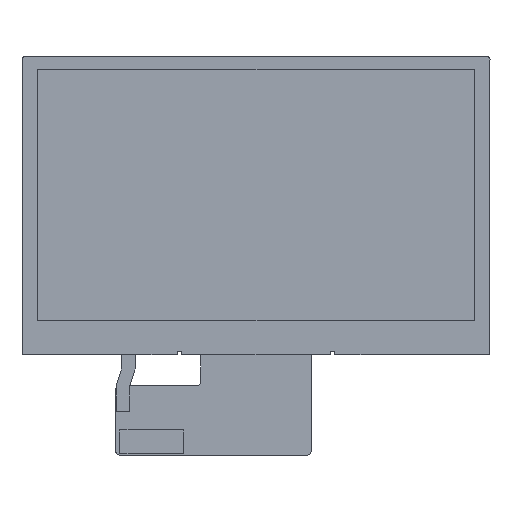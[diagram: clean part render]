
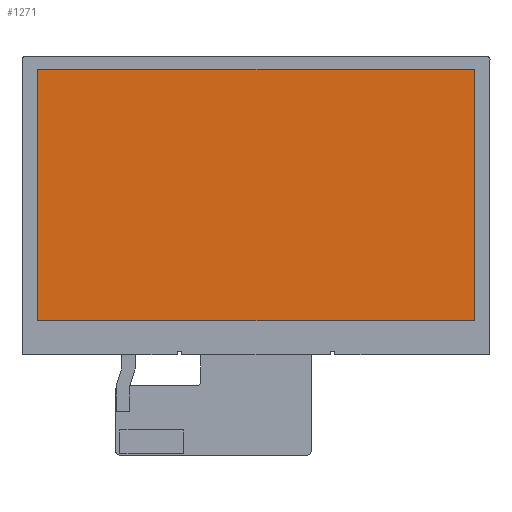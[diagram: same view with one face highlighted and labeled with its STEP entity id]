
A CAD part, top view. The second image highlights one B-rep face of the part: STEP entity #1271.
In plain terms, the highlighted planar face has unit normal (0, 0, 1).
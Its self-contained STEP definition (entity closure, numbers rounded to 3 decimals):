
#327=CARTESIAN_POINT('',(48.913,-28.092,1.3));
#328=DIRECTION('',(0.,0.,1.));
#329=DIRECTION('',(0.,-1.,0.));
#330=AXIS2_PLACEMENT_3D('',#327,#328,#329);
#332=DIRECTION('',(1.,0.,0.));
#333=VECTOR('',#332,97.82);
#334=CARTESIAN_POINT('',(-48.907,-28.342,1.3));
#335=LINE('',#334,#333);
#336=CARTESIAN_POINT('',(-48.907,-28.092,1.3));
#337=DIRECTION('',(0.,0.,1.));
#338=DIRECTION('',(-1.,0.,0.));
#339=AXIS2_PLACEMENT_3D('',#336,#337,#338);
#341=DIRECTION('',(0.,-1.,0.));
#342=VECTOR('',#341,56.2);
#343=CARTESIAN_POINT('',(-49.157,28.108,1.3));
#344=LINE('',#343,#342);
#345=CARTESIAN_POINT('',(-48.907,28.108,1.3));
#346=DIRECTION('',(0.,0.,1.));
#347=DIRECTION('',(0.,1.,0.));
#348=AXIS2_PLACEMENT_3D('',#345,#346,#347);
#350=DIRECTION('',(-1.,0.,0.));
#351=VECTOR('',#350,97.82);
#352=CARTESIAN_POINT('',(48.913,28.358,1.3));
#353=LINE('',#352,#351);
#354=CARTESIAN_POINT('',(48.913,28.108,1.3));
#355=DIRECTION('',(0.,0.,1.));
#356=DIRECTION('',(1.,0.,0.));
#357=AXIS2_PLACEMENT_3D('',#354,#355,#356);
#359=DIRECTION('',(0.,1.,0.));
#360=VECTOR('',#359,56.2);
#361=CARTESIAN_POINT('',(49.163,-28.092,1.3));
#362=LINE('',#361,#360);
#692=CARTESIAN_POINT('',(48.913,-28.342,1.3));
#693=CARTESIAN_POINT('',(49.163,-28.092,1.3));
#694=VERTEX_POINT('',#692);
#695=VERTEX_POINT('',#693);
#696=CARTESIAN_POINT('',(49.163,28.108,1.3));
#697=VERTEX_POINT('',#696);
#698=CARTESIAN_POINT('',(48.913,28.358,1.3));
#699=VERTEX_POINT('',#698);
#700=CARTESIAN_POINT('',(-48.907,28.358,1.3));
#701=VERTEX_POINT('',#700);
#702=CARTESIAN_POINT('',(-49.157,28.108,1.3));
#703=VERTEX_POINT('',#702);
#704=CARTESIAN_POINT('',(-49.157,-28.092,1.3));
#705=VERTEX_POINT('',#704);
#706=CARTESIAN_POINT('',(-48.907,-28.342,1.3));
#707=VERTEX_POINT('',#706);
#1256=CARTESIAN_POINT('',(0.,0.,1.3));
#1257=DIRECTION('',(0.,0.,1.));
#1258=DIRECTION('',(1.,0.,0.));
#1259=AXIS2_PLACEMENT_3D('',#1256,#1257,#1258);
#1260=PLANE('',#1259);
#1261=ORIENTED_EDGE('',*,*,#1152,.F.);
#1262=ORIENTED_EDGE('',*,*,#1167,.F.);
#1263=ORIENTED_EDGE('',*,*,#1181,.F.);
#1264=ORIENTED_EDGE('',*,*,#1195,.F.);
#1265=ORIENTED_EDGE('',*,*,#1209,.F.);
#1266=ORIENTED_EDGE('',*,*,#1223,.F.);
#1267=ORIENTED_EDGE('',*,*,#1237,.F.);
#1268=ORIENTED_EDGE('',*,*,#1250,.F.);
#1269=EDGE_LOOP('',(#1261,#1262,#1263,#1264,#1265,#1266,#1267,#1268));
#1270=FACE_OUTER_BOUND('',#1269,.F.);
#331=CIRCLE('',#330,0.25);
#340=CIRCLE('',#339,0.25);
#349=CIRCLE('',#348,0.25);
#358=CIRCLE('',#357,0.25);
#1152=EDGE_CURVE('',#694,#695,#331,.T.);
#1167=EDGE_CURVE('',#707,#694,#335,.T.);
#1181=EDGE_CURVE('',#705,#707,#340,.T.);
#1195=EDGE_CURVE('',#703,#705,#344,.T.);
#1209=EDGE_CURVE('',#701,#703,#349,.T.);
#1223=EDGE_CURVE('',#699,#701,#353,.T.);
#1237=EDGE_CURVE('',#697,#699,#358,.T.);
#1250=EDGE_CURVE('',#695,#697,#362,.T.);
#1271=ADVANCED_FACE('',(#1270),#1260,.T.);
